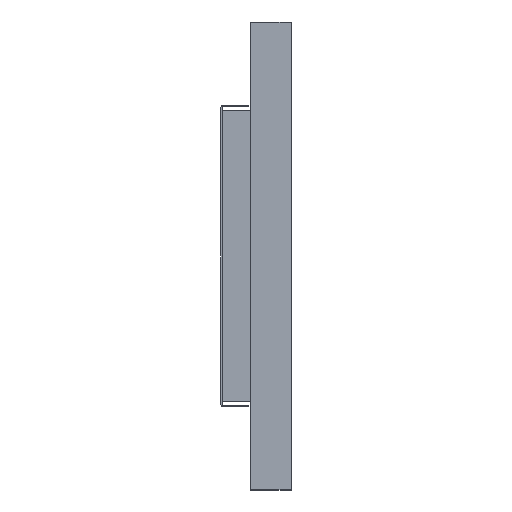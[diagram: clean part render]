
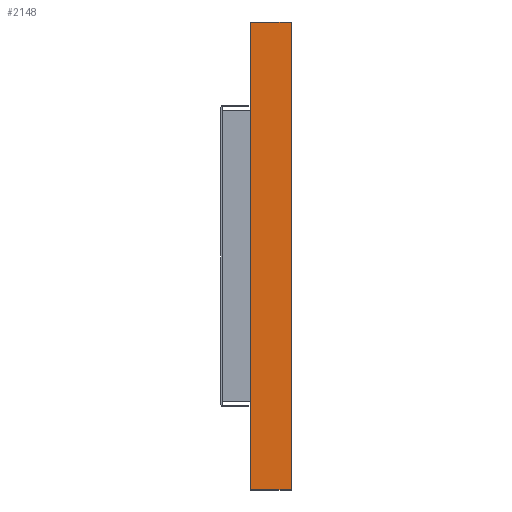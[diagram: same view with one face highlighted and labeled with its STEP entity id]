
A CAD part, left-side view. The second image highlights one B-rep face of the part: STEP entity #2148.
In plain terms, the highlighted planar face has unit normal (-1, 0, 0).
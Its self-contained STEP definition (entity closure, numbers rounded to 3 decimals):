
#46 = EDGE_CURVE ( 'NONE', #1095, #3315, #112, .T. ) ;
#112 = LINE ( 'NONE', #3200, #2382 ) ;
#123 = CARTESIAN_POINT ( 'NONE',  ( -258.592, -12.233, -22. ) ) ;
#263 = VERTEX_POINT ( 'NONE', #123 ) ;
#291 = EDGE_CURVE ( 'NONE', #2969, #263, #1878, .T. ) ;
#425 = ORIENTED_EDGE ( 'NONE', *, *, #46, .F. ) ;
#477 = AXIS2_PLACEMENT_3D ( 'NONE', #912, #1959, #1156 ) ;
#488 = CARTESIAN_POINT ( 'NONE',  ( -258.592, -7.233, -22. ) ) ;
#524 = EDGE_LOOP ( 'NONE', ( #2107, #425, #3004, #3055 ) ) ;
#648 = PLANE ( 'NONE',  #477 ) ;
#742 = LINE ( 'NONE', #488, #2159 ) ;
#804 = VECTOR ( 'NONE', #3168, 1000. ) ;
#858 = FACE_OUTER_BOUND ( 'NONE', #524, .T. ) ;
#887 = DIRECTION ( 'NONE',  ( 0., -1., 0. ) ) ;
#912 = CARTESIAN_POINT ( 'NONE',  ( -258.592, -7.233, -22. ) ) ;
#1077 = EDGE_CURVE ( 'NONE', #2969, #1095, #742, .T. ) ;
#1095 = VERTEX_POINT ( 'NONE', #2231 ) ;
#1156 = DIRECTION ( 'NONE',  ( 0., 0., -1. ) ) ;
#1213 = LINE ( 'NONE', #1231, #2647 ) ;
#1231 = CARTESIAN_POINT ( 'NONE',  ( -258.592, -12.233, -22. ) ) ;
#1843 = CARTESIAN_POINT ( 'NONE',  ( -258.592, -7.233, -22. ) ) ;
#1878 = LINE ( 'NONE', #1843, #804 ) ;
#1959 = DIRECTION ( 'NONE',  ( 1., 0., 0. ) ) ;
#1991 = DIRECTION ( 'NONE',  ( 0., 0., 1. ) ) ;
#2107 = ORIENTED_EDGE ( 'NONE', *, *, #3000, .T. ) ;
#2148 = ADVANCED_FACE ( 'NONE', ( #858 ), #648, .F. ) ;
#2159 = VECTOR ( 'NONE', #1991, 1000. ) ;
#2231 = CARTESIAN_POINT ( 'NONE',  ( -258.592, -7.233, 36. ) ) ;
#2315 = CARTESIAN_POINT ( 'NONE',  ( -258.592, -12.233, 36. ) ) ;
#2382 = VECTOR ( 'NONE', #887, 1000. ) ;
#2532 = CARTESIAN_POINT ( 'NONE',  ( -258.592, -7.233, -22. ) ) ;
#2647 = VECTOR ( 'NONE', #3032, 1000. ) ;
#2969 = VERTEX_POINT ( 'NONE', #2532 ) ;
#3000 = EDGE_CURVE ( 'NONE', #263, #3315, #1213, .T. ) ;
#3004 = ORIENTED_EDGE ( 'NONE', *, *, #1077, .F. ) ;
#3032 = DIRECTION ( 'NONE',  ( 0., 0., 1. ) ) ;
#3055 = ORIENTED_EDGE ( 'NONE', *, *, #291, .T. ) ;
#3168 = DIRECTION ( 'NONE',  ( 0., -1., 0. ) ) ;
#3200 = CARTESIAN_POINT ( 'NONE',  ( -258.592, -7.233, 36. ) ) ;
#3315 = VERTEX_POINT ( 'NONE', #2315 ) ;
